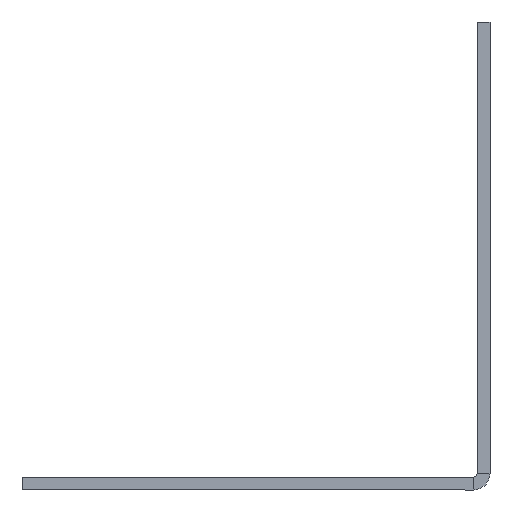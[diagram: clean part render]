
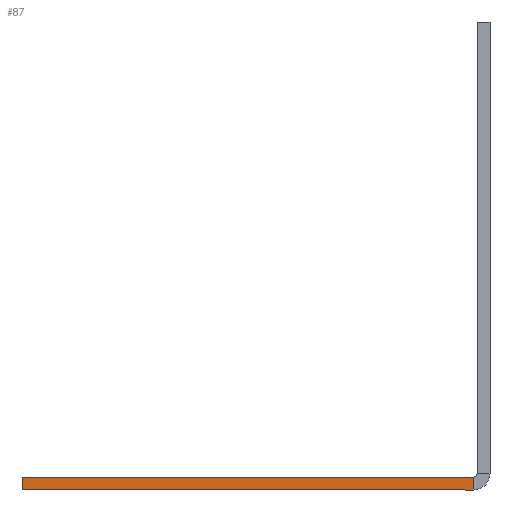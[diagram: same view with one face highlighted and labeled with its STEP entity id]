
A CAD part, left-side view. The second image highlights one B-rep face of the part: STEP entity #87.
In plain terms, the highlighted planar face has unit normal (-1, 0, 0).
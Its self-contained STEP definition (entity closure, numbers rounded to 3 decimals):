
#1 = EDGE_CURVE ( 'NONE', #1501, #933, #1377, .T. ) ;
#18 = ORIENTED_EDGE ( 'NONE', *, *, #1118, .F. ) ;
#59 = DIRECTION ( 'NONE',  ( 0., 0., -1. ) ) ;
#87 = ADVANCED_FACE ( 'NONE', ( #1319 ), #1531, .T. ) ;
#95 = VERTEX_POINT ( 'NONE', #928 ) ;
#155 = CARTESIAN_POINT ( 'NONE',  ( 0., -88.038, -87.962 ) ) ;
#274 = EDGE_CURVE ( 'NONE', #1501, #630, #620, .T. ) ;
#337 = VECTOR ( 'NONE', #59, 1000. ) ;
#393 = CARTESIAN_POINT ( 'NONE',  ( 0., -88.038, -90.462 ) ) ;
#519 = VECTOR ( 'NONE', #1394, 1000. ) ;
#620 = LINE ( 'NONE', #393, #519 ) ;
#628 = AXIS2_PLACEMENT_3D ( 'NONE', #1412, #665, #1548 ) ;
#630 = VERTEX_POINT ( 'NONE', #1202 ) ;
#665 = DIRECTION ( 'NONE',  ( -1., 0., 0. ) ) ;
#677 = ORIENTED_EDGE ( 'NONE', *, *, #825, .F. ) ;
#733 = ORIENTED_EDGE ( 'NONE', *, *, #274, .T. ) ;
#763 = DIRECTION ( 'NONE',  ( 0., -1., 0. ) ) ;
#793 = CARTESIAN_POINT ( 'NONE',  ( 0., 0.737, -90.462 ) ) ;
#804 = VECTOR ( 'NONE', #763, 1000. ) ;
#825 = EDGE_CURVE ( 'NONE', #933, #95, #1506, .T. ) ;
#928 = CARTESIAN_POINT ( 'NONE',  ( 0., 0.737, -87.962 ) ) ;
#933 = VERTEX_POINT ( 'NONE', #1027 ) ;
#1003 = CARTESIAN_POINT ( 'NONE',  ( 0., 87.962, -90.462 ) ) ;
#1027 = CARTESIAN_POINT ( 'NONE',  ( 0., 87.962, -87.962 ) ) ;
#1040 = VECTOR ( 'NONE', #1505, 1000. ) ;
#1058 = CARTESIAN_POINT ( 'NONE',  ( 0., 87.962, -90.462 ) ) ;
#1118 = EDGE_CURVE ( 'NONE', #95, #630, #1593, .T. ) ;
#1202 = CARTESIAN_POINT ( 'NONE',  ( 0., 0.737, -90.462 ) ) ;
#1271 = EDGE_LOOP ( 'NONE', ( #18, #677, #1452, #733 ) ) ;
#1319 = FACE_OUTER_BOUND ( 'NONE', #1271, .T. ) ;
#1377 = LINE ( 'NONE', #1003, #1040 ) ;
#1394 = DIRECTION ( 'NONE',  ( 0., -1., 0. ) ) ;
#1412 = CARTESIAN_POINT ( 'NONE',  ( 0., -88.038, -90.462 ) ) ;
#1452 = ORIENTED_EDGE ( 'NONE', *, *, #1, .F. ) ;
#1501 = VERTEX_POINT ( 'NONE', #1058 ) ;
#1505 = DIRECTION ( 'NONE',  ( 0., 0., 1. ) ) ;
#1506 = LINE ( 'NONE', #155, #804 ) ;
#1531 = PLANE ( 'NONE',  #628 ) ;
#1548 = DIRECTION ( 'NONE',  ( 0., -1., 0. ) ) ;
#1593 = LINE ( 'NONE', #793, #337 ) ;
